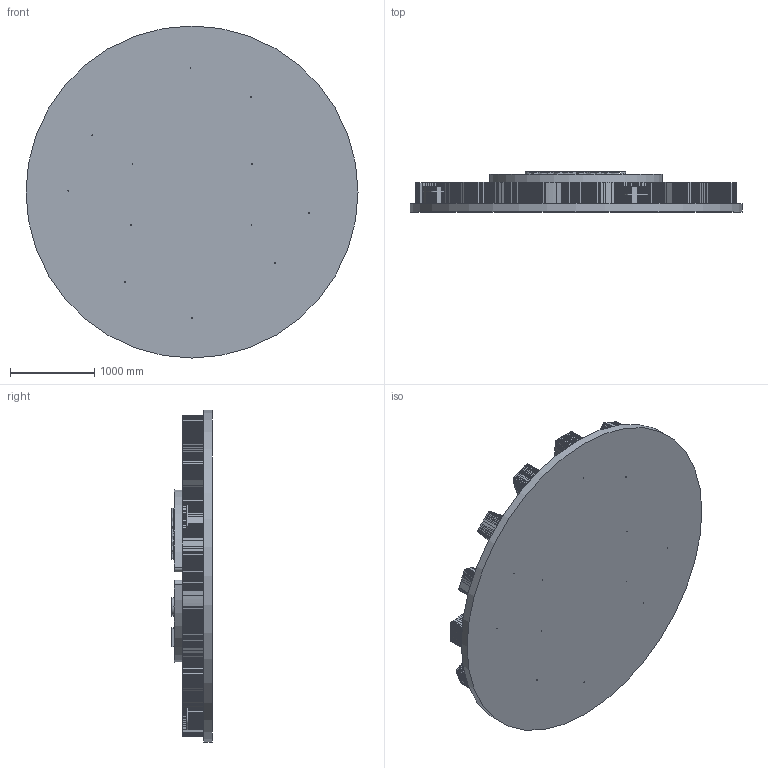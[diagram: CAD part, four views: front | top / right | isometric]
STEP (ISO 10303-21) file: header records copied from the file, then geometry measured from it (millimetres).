
FILE_DESCRIPTION(/* description */ (''),/* implementation_level */ '2;1');
FILE_NAME(/* name */ 'LOGO_castelli.stp',/* time_stamp */ '2025-02-28T17:42:01+01:00',/* author */ ('R5800u'),/* organization */ (''),/* preprocessor_version */ 'ST-DEVELOPER v20',/* originating_system */ 'Autodesk Inventor 2025',/* authorisation */ '');
FILE_SCHEMA (('AUTOMOTIVE_DESIGN { 1 0 10303 214 3 1 1 }'));
Products named in the file (5): LOGO2; Solido9; Solido1; Solido2; Solido9_MIR
Assembly tree (7 placements, depth 2):
  LOGO2
    Solido9
    Solido1
    Solido2  x4
    Solido9_MIR
Bounding box: 3950 x 480 x 3950 mm (x, y, z)
Volume: 3515786677.9 mm3; surface area: 57226166.8 mm2
Topology: 7 solids, 7 shells, 4818 faces, 14235 edges, 9490 vertices
Faces by surface type: plane 4570, cylinder 164, bspline 84
Full cylindrical faces by diameter (mm): 10 x26, 150 x20, 159 x4, 3950 x1
Entity records: 97061 total; most frequent: CARTESIAN_POINT 18996, ORIENTED_EDGE 17238, DIRECTION 14409, EDGE_CURVE 8619, LINE 8219, VECTOR 8219, VERTEX_POINT 5746, AXIS2_PLACEMENT_3D 3095
